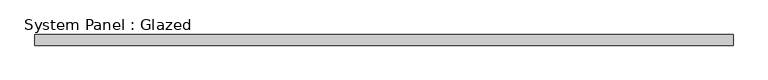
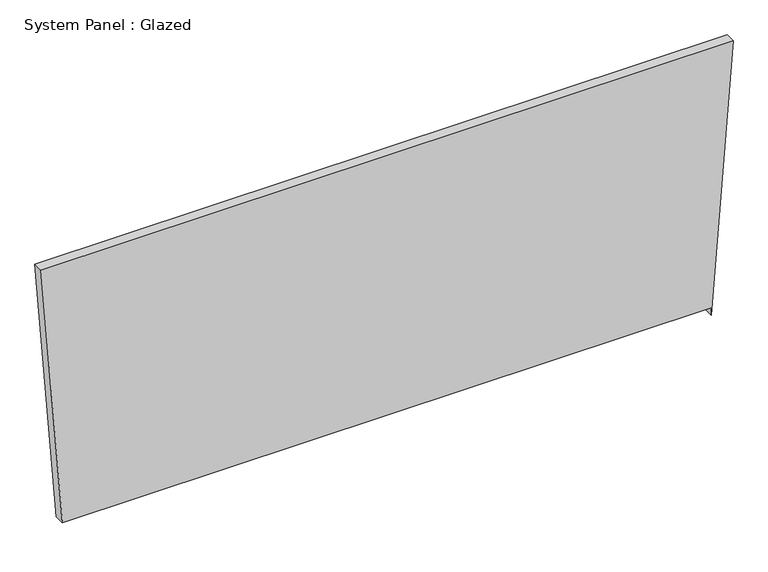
"""IFC4 building model written with IfcOpenShell, lengths in millimetres: plate geometry, System Panel : Glazed."""

import ifcopenshell
import ifcopenshell.guid

model = None  # the IFC model being written
_history = None  # IfcOwnerHistory: only IFC2X3 demands one
_inside = {}  # id of a spatial element -> (the spatial element, [elements in it])
_under = {}  # id of a project, library or spatial element -> (it, [spatial elements below it])
_declared = {}  # id of a project -> (the project, [libraries it declares])
_typed = {}  # id of a type object -> (the type object, [elements of that type])
_made_of = {}  # id of a material, layer set ... -> (it, [elements and type objects made of it])


def new_model(schema):
    """Start an empty IFC model of exactly this schema.

    Asked for "IFC4X3", IfcOpenShell would pick the latest addendum, in which some entities
    have other attributes; the version numbers below select the first issue.
    IFC2X3 requires an IfcOwnerHistory on every rooted entity: one is made here for all.
    """
    global model, _history
    if schema == "IFC4X3":
        model = ifcopenshell.file(schema_version=(4, 3, 0, 0))
    else:
        model = ifcopenshell.file(schema=schema)
    _inside.clear()
    _under.clear()
    _declared.clear()
    _typed.clear()
    _made_of.clear()
    _history = None
    if model.schema == "IFC2X3":
        org = make("IfcOrganization", Name="unknown")
        user = make(
            "IfcPersonAndOrganization",
            ThePerson=make("IfcPerson", FamilyName="unknown"),
            TheOrganization=org,
        )
        app = make(
            "IfcApplication",
            ApplicationDeveloper=org,
            Version="unknown",
            ApplicationFullName="unknown",
            ApplicationIdentifier="unknown",
        )
        _history = make(
            "IfcOwnerHistory",
            OwningUser=user,
            OwningApplication=app,
            ChangeAction="ADDED",
            CreationDate=0,
        )
    return model


def make(cls, **values):
    """One entity of the class cls with the attributes given. An attribute that is None is left unset."""
    return model.create_entity(
        cls, **{name: value for name, value in values.items() if value is not None}
    )


def rooted(cls, **values):
    """An entity with a GlobalId (a new one), such as an element, a storey or a relation."""
    return make(cls, GlobalId=ifcopenshell.guid.new(), OwnerHistory=_history, **values)


def si_unit(unit_type, name, prefix=None):
    """IfcSIUnit, for example si_unit("LENGTHUNIT", "METRE", prefix="MILLI")."""
    return make("IfcSIUnit", UnitType=unit_type, Prefix=prefix, Name=name)


def assignment(units):
    """IfcUnitAssignment: the units of a project."""
    return None if units is None else make("IfcUnitAssignment", Units=units)


def point(xyz):
    """IfcCartesianPoint."""
    return None if xyz is None else make("IfcCartesianPoint", Coordinates=xyz)


def direction(xyz):
    """IfcDirection."""
    return None if xyz is None else make("IfcDirection", DirectionRatios=xyz)


def frame(location, z_axis=None, x_axis=None):
    """IfcAxis2Placement3D, a coordinate frame: its origin and axes. An axis left out is left unset."""
    return make(
        "IfcAxis2Placement3D",
        Location=point(location),
        Axis=direction(z_axis),
        RefDirection=direction(x_axis),
    )


def origin():
    """The frame at (0, 0, 0) with its axes left unset."""
    return frame((0.0, 0.0, 0.0))


def place(relative_to, where):
    """IfcLocalPlacement: puts the frame where relative to a parent placement (None: the world)."""
    return make(
        "IfcLocalPlacement", PlacementRelTo=relative_to, RelativePlacement=where
    )


def context(
    kind, dimensions, precision=None, world=None, true_north=None, identifier=None
):
    """IfcGeometricRepresentationContext, for example the 3D "Model" context."""
    return make(
        "IfcGeometricRepresentationContext",
        ContextIdentifier=identifier,
        ContextType=kind,
        CoordinateSpaceDimension=dimensions,
        Precision=precision,
        WorldCoordinateSystem=world,
        TrueNorth=true_north,
    )


def project(units=None, contexts=None):
    """IfcProject with its units and contexts."""
    return rooted(
        "IfcProject",
        Name="project",
        RepresentationContexts=contexts,
        UnitsInContext=assignment(units),
    )


def spatial(cls, under=None, at=None, **own):
    """A site, building, storey or space (cls), placed at a placement, below another one or the project."""
    s = rooted(cls, ObjectPlacement=at, **own)
    if under is not None:
        _under.setdefault(under.id(), (under, []))[1].append(s)
    return s


def polyline(points):
    """IfcPolyline through the points."""
    return make("IfcPolyline", Points=[point(p) for p in points])


def outline(outer, holes=None, kind="AREA"):
    """IfcArbitraryClosedProfileDef: a profile drawn as a closed curve; with holes, ...WithVoids."""
    if holes is None:
        return make("IfcArbitraryClosedProfileDef", ProfileType=kind, OuterCurve=outer)
    return make(
        "IfcArbitraryProfileDefWithVoids",
        ProfileType=kind,
        OuterCurve=outer,
        InnerCurves=holes,
    )


def extrude(swept, where, along, depth):
    """IfcExtrudedAreaSolid: the profile swept, set in the frame where, extruded along a direction by depth."""
    return make(
        "IfcExtrudedAreaSolid",
        SweptArea=swept,
        Position=where,
        ExtrudedDirection=direction(along),
        Depth=depth,
    )


def shape(context_of_items, identifier, shape_type, items):
    """IfcShapeRepresentation: the items that make up one representation, for example the "Body"."""
    return make(
        "IfcShapeRepresentation",
        ContextOfItems=context_of_items,
        RepresentationIdentifier=identifier,
        RepresentationType=shape_type,
        Items=items,
    )


def source(mapping_origin, context_of_items, identifier, shape_type, items):
    """IfcRepresentationMap: a shape defined once, which mapped items show again and again."""
    return make(
        "IfcRepresentationMap",
        MappingOrigin=mapping_origin,
        MappedRepresentation=shape(context_of_items, identifier, shape_type, items),
    )


def transform(
    local_origin,
    x_axis=None,
    y_axis=None,
    z_axis=None,
    scale=None,
    scale2=None,
    scale3=None,
    uniform=True,
):
    """IfcCartesianTransformationOperator3D, or its non-uniform kind. x_axis, y_axis, z_axis: its Axis1, 2, 3."""
    if uniform:
        return make(
            "IfcCartesianTransformationOperator3D",
            Axis1=direction(x_axis),
            Axis2=direction(y_axis),
            LocalOrigin=point(local_origin),
            Scale=scale,
            Axis3=direction(z_axis),
        )
    return make(
        "IfcCartesianTransformationOperator3DnonUniform",
        Axis1=direction(x_axis),
        Axis2=direction(y_axis),
        LocalOrigin=point(local_origin),
        Scale=scale,
        Axis3=direction(z_axis),
        Scale2=scale2,
        Scale3=scale3,
    )


def mapped(mapping_source, mapping_target):
    """IfcMappedItem: shows the shape of a source again, moved by a transform."""
    return make(
        "IfcMappedItem", MappingSource=mapping_source, MappingTarget=mapping_target
    )


def made_of(thing, what):
    """Note that an element or type object is made of a material, layer set ...; save() writes the relation."""
    if what is not None:
        _made_of.setdefault(what.id(), (what, []))[1].append(thing)
    return thing


def element(
    cls,
    number,
    at=None,
    inside=None,
    cuts=None,
    type_object=None,
    material=None,
    context=None,
    identifier="Body",
    shape_type=None,
    held_by="IfcProductDefinitionShape",
    body=None,
    shapes=None,
    **own,
):
    """One element of the class cls, such as IfcWall. Its Tag is "e" and its number.

    at: its placement. inside: the storey or other place that contains it. cuts: it is an
    opening in that element (IfcRelVoidsElement). A single representation is given by context,
    identifier, shape_type and body (its items); several are given by shapes. held_by: the class
    of the entity that holds the representations. save() writes the other relations.
    """
    e = rooted(cls, Tag="e%d" % number, ObjectPlacement=at, **own)
    if body is not None:
        shapes = [shape(context, identifier, shape_type, body)]
    if shapes is not None:
        e.Representation = make(held_by, Representations=shapes)
    if inside is not None:
        _inside.setdefault(inside.id(), (inside, []))[1].append(e)
    if cuts is not None:
        rooted(
            "IfcRelVoidsElement", RelatingBuildingElement=cuts, RelatedOpeningElement=e
        )
    if type_object is not None:
        _typed.setdefault(type_object.id(), (type_object, []))[1].append(e)
    return made_of(e, material)


def aggregate(whole, parts):
    """IfcRelAggregates: a whole, such as a stair, and the parts it consists of."""
    return rooted("IfcRelAggregates", RelatingObject=whole, RelatedObjects=parts)


def save(model, path):
    """Write the relations noted so far, then the file.

    IfcRelAggregates (storeys below a building ...), IfcRelContainedInSpatialStructure (elements
    in a storey), IfcRelDefinesByType, IfcRelAssociatesMaterial and IfcRelDeclares: one each for
    every whole, place, type object, material and project.
    """
    for whole, parts in _under.values():
        aggregate(whole, parts)
    for where, things in _inside.values():
        rooted(
            "IfcRelContainedInSpatialStructure",
            RelatedElements=things,
            RelatingStructure=where,
        )
    for kind, things in _typed.values():
        rooted("IfcRelDefinesByType", RelatedObjects=things, RelatingType=kind)
    for what, things in _made_of.values():
        rooted("IfcRelAssociatesMaterial", RelatedObjects=things, RelatingMaterial=what)
    for by, libraries in _declared.values():
        rooted("IfcRelDeclares", RelatingContext=by, RelatedDefinitions=libraries)
    model.write(path)


def system_panel_glazed_ec5c0f32(model_context):
    return source(origin(), model_context, "Body", "SweptSolid", [
        extrude(outline(polyline([(19.05, 783.6224829), (0.0, 783.6224757), (682.2158175, 836.5723868), (682.2164477, -836.5723868), (19.0505909, -785.1010309), (19.05, 783.6224829)])), frame((0.0, 19.05, 0.0), z_axis=(0.0, 1.0, 0.0), x_axis=(0.0, 0.0, 1.0)), (0.0, 0.0, 1.0), 25.4),
    ])


if __name__ == "__main__":
    model = new_model("IFC4")
    model_context = context("Model", 3, world=origin())
    ifc_project = project(units=[si_unit("LENGTHUNIT", "METRE", prefix="MILLI")], contexts=[model_context])
    site = spatial("IfcSite", under=ifc_project)
    building = spatial("IfcBuilding", under=site)
    placement = place(None, origin())
    system_panel_glazed_shape = system_panel_glazed_ec5c0f32(model_context)
    element("IfcPlate", 1, ObjectType="System Panel : Glazed", at=placement, inside=building, context=model_context, shape_type="MappedRepresentation", body=[
        mapped(system_panel_glazed_shape, transform((0.0, 0.0, 0.0), x_axis=(1.0, 0.0, 0.0), y_axis=(0.0, 1.0, 0.0), z_axis=(0.0, 0.0, 1.0))),
    ])
    save(model, "model.ifc")
